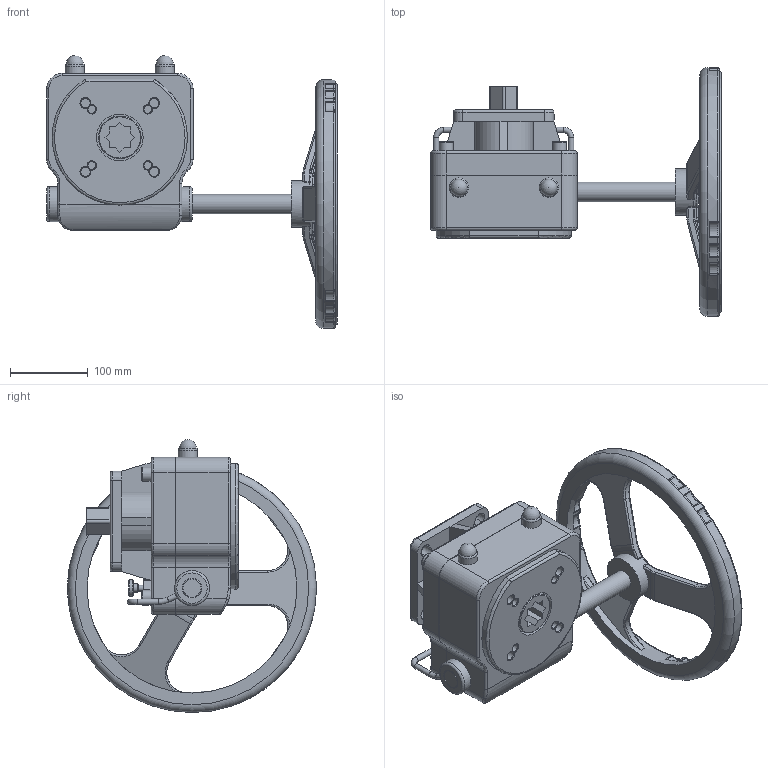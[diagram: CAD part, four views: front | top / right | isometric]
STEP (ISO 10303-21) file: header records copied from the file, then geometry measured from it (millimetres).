
FILE_DESCRIPTION(('STEP AP242'), '1');
FILE_NAME('MON4-1200-T54-ISO 唒籦鍣 劌摠歑 DN.ru', '2026-04-21T21:37:03', ('R2D2'), (''), 'C3D Converter', 'C3D Toolkit', '');
FILE_SCHEMA(('AP242_MANAGED_MODEL_BASED_3D_ENGINEERING_MIM_LF { 1 0 10303 442 1 1 4 }'));
Length unit declared in the file: millimetre
Products named in the file (1): MON4-1200-T54-ISO
Bounding box: 374.25 x 320 x 351.11 mm (x, y, z)
Volume: 5280909.1 mm3; surface area: 444679.8 mm2
Topology: 2 solids, 2 shells, 971 faces, 2504 edges, 1584 vertices
Faces by surface type: plane 433, cylinder 220, bspline 150, torus 108, sphere 40, cone 20
Full cylindrical faces by diameter (mm): 7 x5, 7.593 x1, 10 x4, 11.216 x1, 12 x4, 13 x4, 18 x4, 21.162 x1, 24.8 x1, 25 x4, 30 x1, 45 x2, 52 x1, 55 x2, 60 x2, 270 x1, 280 x1, 310 x1, 320 x1
Entity records: 62063 total; most frequent: CARTESIAN_POINT 31599, ORIENTED_EDGE 4836, DIRECTION 4311, EDGE_CURVE 2418, VERTEX_POINT 1576, AXIS2_PLACEMENT_3D 1524, LINE 1263, VECTOR 1263
